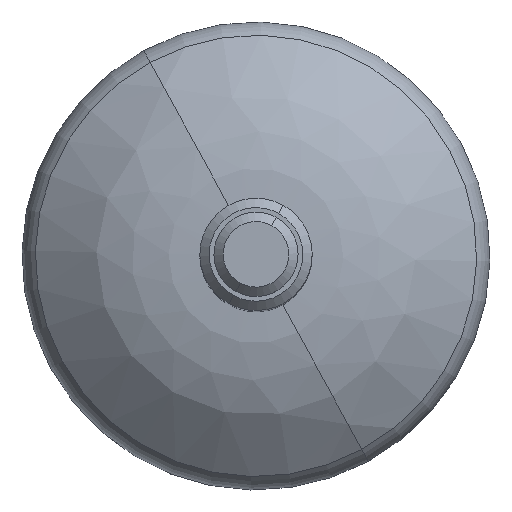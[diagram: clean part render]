
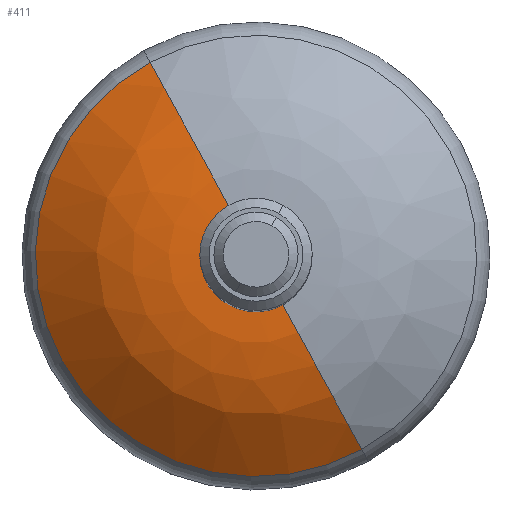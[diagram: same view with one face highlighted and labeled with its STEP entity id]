
A CAD part, top view. The second image highlights one B-rep face of the part: STEP entity #411.
In plain terms, the highlighted face is a revolution surface.
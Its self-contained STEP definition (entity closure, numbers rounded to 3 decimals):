
#243=EDGE_CURVE('',#595,#596,#597,.T.);
#255=EDGE_CURVE('',#596,#613,#614,.T.);
#291=EDGE_CURVE('',#667,#613,#668,.T.);
#409=EDGE_CURVE('',#595,#667,#815,.T.);
#411=ADVANCED_FACE('',(#817),#818,.F.);
#595=VERTEX_POINT('',#1048);
#596=VERTEX_POINT('',#1049);
#597=CIRCLE('',#1050,25.0);
#613=VERTEX_POINT('',#1073);
#614=CIRCLE('',#1074,5.295);
#667=VERTEX_POINT('',#1146);
#668=CIRCLE('',#1147,25.0);
#815=CIRCLE('',#1350,23.571);
#817=FACE_OUTER_BOUND('',#1352,.T.);
#818=SURFACE_OF_REVOLUTION('',#1353,#1354);
#1048=CARTESIAN_POINT('',(-11.3,20.685,6.5));
#1049=CARTESIAN_POINT('',(-2.539,4.647,13.996));
#1050=AXIS2_PLACEMENT_3D('',#1571,#1572,#1573);
#1073=CARTESIAN_POINT('',(2.539,-4.647,13.996));
#1074=AXIS2_PLACEMENT_3D('',#1590,#1591,#1592);
#1146=CARTESIAN_POINT('',(11.3,-20.685,6.5));
#1147=AXIS2_PLACEMENT_3D('',#1655,#1656,#1657);
#1350=AXIS2_PLACEMENT_3D('',#1914,#1915,#1916);
#1352=EDGE_LOOP('',(#1918,#1919,#1920,#1921));
#1353=B_SPLINE_CURVE_WITH_KNOTS('',4,(#1922,#1923,#1924,#1925,#1926),.UNSPECIFIED.,.F.,.F.,(5,5),(19.385,39.692),.UNSPECIFIED.);
#1354=AXIS1_PLACEMENT('',#1927,#1928);
#1571=CARTESIAN_POINT('',(-2.741,5.017,-11.0));
#1572=DIRECTION('',(0.878,0.479,0.0));
#1573=DIRECTION('',(0.479,-0.878,0.0));
#1590=CARTESIAN_POINT('',(0.0,0.0,13.996));
#1591=DIRECTION('',(0.0,0.0,1.0));
#1592=DIRECTION('',(1.0,0.0,0.0));
#1655=CARTESIAN_POINT('',(2.741,-5.017,-11.0));
#1656=DIRECTION('',(-0.878,-0.479,0.0));
#1657=DIRECTION('',(0.479,-0.878,0.0));
#1914=CARTESIAN_POINT('',(0.0,0.0,6.5));
#1915=DIRECTION('',(0.0,0.0,1.0));
#1916=DIRECTION('',(1.0,0.0,0.0));
#1918=ORIENTED_EDGE('',*,*,#243,.F.);
#1919=ORIENTED_EDGE('',*,*,#409,.T.);
#1920=ORIENTED_EDGE('',*,*,#291,.T.);
#1921=ORIENTED_EDGE('',*,*,#255,.F.);
#1922=CARTESIAN_POINT('',(-11.3,20.685,6.5));
#1923=CARTESIAN_POINT('',(-9.597,17.567,10.126));
#1924=CARTESIAN_POINT('',(-7.42,13.582,12.792));
#1925=CARTESIAN_POINT('',(-4.972,9.101,14.082));
#1926=CARTESIAN_POINT('',(-2.539,4.647,13.996));
#1927=CARTESIAN_POINT('',(0.0,0.0,6.5));
#1928=DIRECTION('',(-0.0,-0.0,-1.0));
